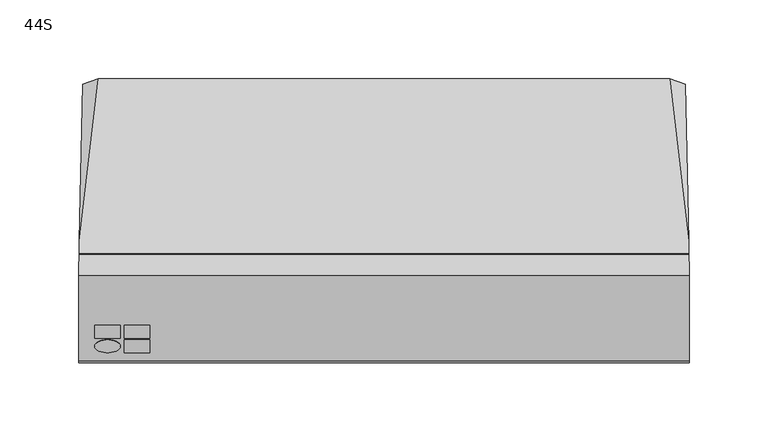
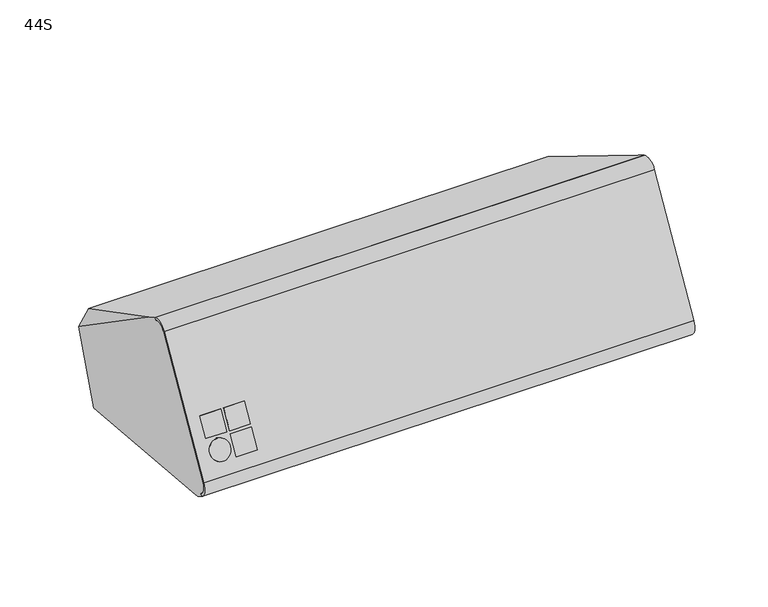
"""IFC4 building model written with IfcOpenShell, lengths in millimetres: proxy geometry, d&b xS-Series 44S Point Source : 44S."""

import ifcopenshell
import ifcopenshell.guid

model = None  # the IFC model being written
_history = None  # IfcOwnerHistory: only IFC2X3 demands one
_inside = {}  # id of a spatial element -> (the spatial element, [elements in it])
_under = {}  # id of a project, library or spatial element -> (it, [spatial elements below it])
_declared = {}  # id of a project -> (the project, [libraries it declares])
_typed = {}  # id of a type object -> (the type object, [elements of that type])
_made_of = {}  # id of a material, layer set ... -> (it, [elements and type objects made of it])


def new_model(schema):
    """Start an empty IFC model of exactly this schema.

    Asked for "IFC4X3", IfcOpenShell would pick the latest addendum, in which some entities
    have other attributes; the version numbers below select the first issue.
    IFC2X3 requires an IfcOwnerHistory on every rooted entity: one is made here for all.
    """
    global model, _history
    if schema == "IFC4X3":
        model = ifcopenshell.file(schema_version=(4, 3, 0, 0))
    else:
        model = ifcopenshell.file(schema=schema)
    _inside.clear()
    _under.clear()
    _declared.clear()
    _typed.clear()
    _made_of.clear()
    _history = None
    if model.schema == "IFC2X3":
        org = make("IfcOrganization", Name="unknown")
        user = make(
            "IfcPersonAndOrganization",
            ThePerson=make("IfcPerson", FamilyName="unknown"),
            TheOrganization=org,
        )
        app = make(
            "IfcApplication",
            ApplicationDeveloper=org,
            Version="unknown",
            ApplicationFullName="unknown",
            ApplicationIdentifier="unknown",
        )
        _history = make(
            "IfcOwnerHistory",
            OwningUser=user,
            OwningApplication=app,
            ChangeAction="ADDED",
            CreationDate=0,
        )
    return model


def make(cls, **values):
    """One entity of the class cls with the attributes given. An attribute that is None is left unset."""
    return model.create_entity(
        cls, **{name: value for name, value in values.items() if value is not None}
    )


def rooted(cls, **values):
    """An entity with a GlobalId (a new one), such as an element, a storey or a relation."""
    return make(cls, GlobalId=ifcopenshell.guid.new(), OwnerHistory=_history, **values)


def si_unit(unit_type, name, prefix=None):
    """IfcSIUnit, for example si_unit("LENGTHUNIT", "METRE", prefix="MILLI")."""
    return make("IfcSIUnit", UnitType=unit_type, Prefix=prefix, Name=name)


def assignment(units):
    """IfcUnitAssignment: the units of a project."""
    return None if units is None else make("IfcUnitAssignment", Units=units)


def point(xyz):
    """IfcCartesianPoint."""
    return None if xyz is None else make("IfcCartesianPoint", Coordinates=xyz)


def direction(xyz):
    """IfcDirection."""
    return None if xyz is None else make("IfcDirection", DirectionRatios=xyz)


def frame(location, z_axis=None, x_axis=None):
    """IfcAxis2Placement3D, a coordinate frame: its origin and axes. An axis left out is left unset."""
    return make(
        "IfcAxis2Placement3D",
        Location=point(location),
        Axis=direction(z_axis),
        RefDirection=direction(x_axis),
    )


def frame_2d(location, x_axis=None):
    """IfcAxis2Placement2D, a coordinate frame in the plane: its origin and x axis."""
    return make(
        "IfcAxis2Placement2D", Location=point(location), RefDirection=direction(x_axis)
    )


def origin():
    """The frame at (0, 0, 0) with its axes left unset."""
    return frame((0.0, 0.0, 0.0))


def place(relative_to, where):
    """IfcLocalPlacement: puts the frame where relative to a parent placement (None: the world)."""
    return make(
        "IfcLocalPlacement", PlacementRelTo=relative_to, RelativePlacement=where
    )


def context(
    kind, dimensions, precision=None, world=None, true_north=None, identifier=None
):
    """IfcGeometricRepresentationContext, for example the 3D "Model" context."""
    return make(
        "IfcGeometricRepresentationContext",
        ContextIdentifier=identifier,
        ContextType=kind,
        CoordinateSpaceDimension=dimensions,
        Precision=precision,
        WorldCoordinateSystem=world,
        TrueNorth=true_north,
    )


def project(units=None, contexts=None):
    """IfcProject with its units and contexts."""
    return rooted(
        "IfcProject",
        Name="project",
        RepresentationContexts=contexts,
        UnitsInContext=assignment(units),
    )


def spatial(cls, under=None, at=None, **own):
    """A site, building, storey or space (cls), placed at a placement, below another one or the project."""
    s = rooted(cls, ObjectPlacement=at, **own)
    if under is not None:
        _under.setdefault(under.id(), (under, []))[1].append(s)
    return s


def polyline(points):
    """IfcPolyline through the points."""
    return make("IfcPolyline", Points=[point(p) for p in points])


def circle_curve(where, radius):
    """IfcCircle in the frame where."""
    return make("IfcCircle", Position=where, Radius=radius)


def ellipse_curve(where, semi_axis1, semi_axis2):
    """IfcEllipse in the frame where."""
    return make(
        "IfcEllipse", Position=where, SemiAxis1=semi_axis1, SemiAxis2=semi_axis2
    )


def trimmed(basis, trim1, trim2, sense, master):
    """IfcTrimmedCurve: the piece of a basis curve between two trims."""
    return make(
        "IfcTrimmedCurve",
        BasisCurve=basis,
        Trim1=trim1,
        Trim2=trim2,
        SenseAgreement=sense,
        MasterRepresentation=master,
    )


def segment(curve, same_sense, transition):
    """IfcCompositeCurveSegment."""
    return make(
        "IfcCompositeCurveSegment",
        Transition=transition,
        SameSense=same_sense,
        ParentCurve=curve,
    )


def composite_curve(segments, self_intersect=None):
    """IfcCompositeCurve: segments joined end to end."""
    return make("IfcCompositeCurve", Segments=segments, SelfIntersect=self_intersect)


def outline(outer, holes=None, kind="AREA"):
    """IfcArbitraryClosedProfileDef: a profile drawn as a closed curve; with holes, ...WithVoids."""
    if holes is None:
        return make("IfcArbitraryClosedProfileDef", ProfileType=kind, OuterCurve=outer)
    return make(
        "IfcArbitraryProfileDefWithVoids",
        ProfileType=kind,
        OuterCurve=outer,
        InnerCurves=holes,
    )


def extrude(swept, where, along, depth):
    """IfcExtrudedAreaSolid: the profile swept, set in the frame where, extruded along a direction by depth."""
    return make(
        "IfcExtrudedAreaSolid",
        SweptArea=swept,
        Position=where,
        ExtrudedDirection=direction(along),
        Depth=depth,
    )


def shape(context_of_items, identifier, shape_type, items):
    """IfcShapeRepresentation: the items that make up one representation, for example the "Body"."""
    return make(
        "IfcShapeRepresentation",
        ContextOfItems=context_of_items,
        RepresentationIdentifier=identifier,
        RepresentationType=shape_type,
        Items=items,
    )


def source(mapping_origin, context_of_items, identifier, shape_type, items):
    """IfcRepresentationMap: a shape defined once, which mapped items show again and again."""
    return make(
        "IfcRepresentationMap",
        MappingOrigin=mapping_origin,
        MappedRepresentation=shape(context_of_items, identifier, shape_type, items),
    )


def transform(
    local_origin,
    x_axis=None,
    y_axis=None,
    z_axis=None,
    scale=None,
    scale2=None,
    scale3=None,
    uniform=True,
):
    """IfcCartesianTransformationOperator3D, or its non-uniform kind. x_axis, y_axis, z_axis: its Axis1, 2, 3."""
    if uniform:
        return make(
            "IfcCartesianTransformationOperator3D",
            Axis1=direction(x_axis),
            Axis2=direction(y_axis),
            LocalOrigin=point(local_origin),
            Scale=scale,
            Axis3=direction(z_axis),
        )
    return make(
        "IfcCartesianTransformationOperator3DnonUniform",
        Axis1=direction(x_axis),
        Axis2=direction(y_axis),
        LocalOrigin=point(local_origin),
        Scale=scale,
        Axis3=direction(z_axis),
        Scale2=scale2,
        Scale3=scale3,
    )


def mapped(mapping_source, mapping_target):
    """IfcMappedItem: shows the shape of a source again, moved by a transform."""
    return make(
        "IfcMappedItem", MappingSource=mapping_source, MappingTarget=mapping_target
    )


def made_of(thing, what):
    """Note that an element or type object is made of a material, layer set ...; save() writes the relation."""
    if what is not None:
        _made_of.setdefault(what.id(), (what, []))[1].append(thing)
    return thing


def element(
    cls,
    number,
    at=None,
    inside=None,
    cuts=None,
    type_object=None,
    material=None,
    context=None,
    identifier="Body",
    shape_type=None,
    held_by="IfcProductDefinitionShape",
    body=None,
    shapes=None,
    **own,
):
    """One element of the class cls, such as IfcWall. Its Tag is "e" and its number.

    at: its placement. inside: the storey or other place that contains it. cuts: it is an
    opening in that element (IfcRelVoidsElement). A single representation is given by context,
    identifier, shape_type and body (its items); several are given by shapes. held_by: the class
    of the entity that holds the representations. save() writes the other relations.
    """
    e = rooted(cls, Tag="e%d" % number, ObjectPlacement=at, **own)
    if body is not None:
        shapes = [shape(context, identifier, shape_type, body)]
    if shapes is not None:
        e.Representation = make(held_by, Representations=shapes)
    if inside is not None:
        _inside.setdefault(inside.id(), (inside, []))[1].append(e)
    if cuts is not None:
        rooted(
            "IfcRelVoidsElement", RelatingBuildingElement=cuts, RelatedOpeningElement=e
        )
    if type_object is not None:
        _typed.setdefault(type_object.id(), (type_object, []))[1].append(e)
    return made_of(e, material)


def aggregate(whole, parts):
    """IfcRelAggregates: a whole, such as a stair, and the parts it consists of."""
    return rooted("IfcRelAggregates", RelatingObject=whole, RelatedObjects=parts)


def save(model, path):
    """Write the relations noted so far, then the file.

    IfcRelAggregates (storeys below a building ...), IfcRelContainedInSpatialStructure (elements
    in a storey), IfcRelDefinesByType, IfcRelAssociatesMaterial and IfcRelDeclares: one each for
    every whole, place, type object, material and project.
    """
    for whole, parts in _under.values():
        aggregate(whole, parts)
    for where, things in _inside.values():
        rooted(
            "IfcRelContainedInSpatialStructure",
            RelatedElements=things,
            RelatingStructure=where,
        )
    for kind, things in _typed.values():
        rooted("IfcRelDefinesByType", RelatedObjects=things, RelatingType=kind)
    for what, things in _made_of.values():
        rooted("IfcRelAssociatesMaterial", RelatedObjects=things, RelatingMaterial=what)
    for by, libraries in _declared.values():
        rooted("IfcRelDeclares", RelatingContext=by, RelatedDefinitions=libraries)
    model.write(path)


def plane_surface(at):
    """IfcPlane: the flat surface through the origin of the frame at, square to its z axis."""
    return make("IfcPlane", Position=at)


def cylinder_surface(at, radius):
    """IfcCylindricalSurface: all points at the distance radius from the z axis of the frame at."""
    return make("IfcCylindricalSurface", Position=at, Radius=radius)


def revolved_surface(curve, axis_point, axis_direction):
    """IfcSurfaceOfRevolution: the curve turned about the line through axis_point along axis_direction."""
    return make(
        "IfcSurfaceOfRevolution",
        SweptCurve=make("IfcArbitraryOpenProfileDef", ProfileType="CURVE", Curve=curve),
        AxisPosition=make("IfcAxis1Placement", Location=point(axis_point), Axis=direction(axis_direction)),
    )


def advanced_brep(points, edges, surfaces, faces):
    """IfcAdvancedBrep: a solid bounded by faces that lie on surfaces and meet in shared edges.

    An edge is (start, end): straight between two places in points (the first is 0);
    or (start, end, curve); or (start, end, curve, False) where it runs against its curve.
    A face is (place in surfaces, loops), or (place, loops, False) where it looks against
    its surface's normal. A loop lists edges by number (the first is 1), with a minus sign
    where the edge is run from its end to its start. The first loop is the outer one.
    """
    corners = [point(p) for p in points]
    vertices = [make("IfcVertexPoint", VertexGeometry=c) for c in corners]
    made = []
    for start, end, *more in edges:
        made.append(
            make(
                "IfcEdgeCurve",
                EdgeStart=vertices[start],
                EdgeEnd=vertices[end],
                EdgeGeometry=more[0] if more else make("IfcPolyline", Points=[corners[start], corners[end]]),
                SameSense=more[1] if len(more) > 1 else True,
            )
        )
    hull = []
    for where, loops, *sense in faces:
        bounds = []
        for j, loop in enumerate(loops):
            ring = [make("IfcOrientedEdge", EdgeElement=made[abs(k) - 1], Orientation=k > 0) for k in loop]
            bounds.append(
                make(
                    "IfcFaceOuterBound" if j == 0 else "IfcFaceBound",
                    Bound=make("IfcEdgeLoop", EdgeList=ring),
                    Orientation=True,
                )
            )
        hull.append(make("IfcAdvancedFace", Bounds=bounds, FaceSurface=surfaces[where], SameSense=sense[0] if sense else True))
    return make("IfcAdvancedBrep", Outer=make("IfcClosedShell", CfsFaces=hull))


def proxy_44s_0ea58366(model_context):
    return source(origin(), model_context, "Body", "SolidModel", [
        advanced_brep(
        [(193.2924342, -25.1576766, 88.4256258), (193.2924342, -26.1359145, 86.7312681), (193.4294708, -37.0164369, 83.8158409), (193.4294708, -91.0556514, -9.7828242), (193.2918337, -88.1274482, -20.7110274), (193.2918337, -89.1274482, -22.4430782), (193.1898069, -83.9917527, -25.4081734), (193.132384, -80.4940274, -26.0252142), (190.8800877, 62.083919, -40.8972455), (191.0574064, 82.3836518, 14.875812), (193.132384, -17.1012722, 83.7742586), (-193.2924342, -26.1359145, 86.7312681), (-193.2924342, -25.1576766, 88.4256258), (-193.132384, -17.1012722, 83.7742586), (-191.0574064, 82.3836518, 14.875812), (-190.8800877, 62.083919, -40.8972455), (-193.132384, -80.4940274, -26.0252142), (-193.1898069, -83.9917527, -25.4081734), (-193.2918337, -89.1274482, -22.4430782), (-193.2918337, -88.1274482, -20.7110274), (-193.4294708, -91.0556514, -9.7828242), (-193.4294708, -37.0164369, 83.8158409), (181.3061997, 85.8306872, 24.3464641), (-181.3061997, 85.8306872, 24.3464641), (-179.9289467, 58.5679066, -50.55741), (179.9289467, 58.5679066, -50.55741), (138.5, 67.7530351, -25.3214771), (138.5, 76.6455588, -0.8894689), (128.5, 80.0657602, 8.5074573), (51.5, 80.0657602, 8.5074573), (41.5, 76.6455588, -0.8894689), (41.5, 67.7530351, -25.3214771), (51.5, 64.3328336, -34.7184033), (128.5, 64.3328336, -34.7184033), (138.5, 63.054572, -23.6113763), (128.5, 59.6343705, -33.0083025), (51.5, 59.6343705, -33.0083025), (41.5, 63.054572, -23.6113763), (41.5, 71.9470957, 0.8206318), (51.5, 75.3672971, 10.217558), (128.5, 75.3672971, 10.217558), (138.5, 71.9470957, 0.8206318)],
        [
            (0, 1),
            (1, 2, ellipse_curve(frame((193.2924342, -30.1184621, 79.8332933), z_axis=(0.9998520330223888, 0.014897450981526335, -0.008601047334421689), x_axis=(0.017202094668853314, -0.865897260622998, 0.49992601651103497)), 7.9662739, 7.9650952)),
            (2, 3),
            (3, 4, ellipse_curve(frame((193.2918337, -84.1274482, -13.7828242), z_axis=(0.9998520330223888, 0.014897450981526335, -0.008601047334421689), x_axis=(0.017202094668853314, -0.865897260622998, 0.49992601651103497)), 8.0011839, 8.0)),
            (4, 5),
            (5, 6),
            (6, 7),
            (7, 8),
            (8, 9),
            (9, 10),
            (10, 0),
            (11, 12),
            (12, 13),
            (13, 14),
            (14, 15),
            (15, 16),
            (16, 17),
            (17, 18),
            (18, 19),
            (19, 20, ellipse_curve(frame((-193.2918337, -84.1274482, -13.7828242), z_axis=(-0.999852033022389, 0.014897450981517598, -0.008601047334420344), x_axis=(0.0172020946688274, 0.8658972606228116, -0.49992601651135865)), 8.0011839, 8.0)),
            (20, 21),
            (21, 11, ellipse_curve(frame((-193.2924342, -30.1184621, 79.8332933), z_axis=(-0.999852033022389, 0.014897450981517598, -0.008601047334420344), x_axis=(0.0172020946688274, 0.8658972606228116, -0.49992601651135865)), 7.9662739, 7.9650952)),
            (0, 12),
            (11, 1),
            (21, 2),
            (20, 3),
            (19, 4),
            (18, 5),
            (17, 6),
            (10, 22),
            (22, 23),
            (23, 13),
            (16, 24),
            (24, 25),
            (25, 7),
            (9, 22),
            (23, 14),
            (15, 24),
            (25, 8),
            (26, 27),
            (27, 28, circle_curve(frame((128.5, 76.6455588, -0.8894689), z_axis=(0.0, -0.9396926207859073, 0.34202014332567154), x_axis=(0.0, -0.34202014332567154, -0.9396926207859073)), 10.0)),
            (28, 29),
            (29, 30, circle_curve(frame((51.5, 76.6455588, -0.8894689), z_axis=(0.0, -0.9396926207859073, 0.34202014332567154), x_axis=(0.0, -0.34202014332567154, -0.9396926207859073)), 10.0)),
            (30, 31),
            (31, 32, circle_curve(frame((51.5, 67.7530351, -25.3214771), z_axis=(0.0, -0.9396926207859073, 0.34202014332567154), x_axis=(0.0, -0.34202014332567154, -0.9396926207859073)), 10.0)),
            (32, 33),
            (33, 26, circle_curve(frame((128.5, 67.7530351, -25.3214771), z_axis=(0.0, -0.9396926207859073, 0.34202014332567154), x_axis=(0.0, -0.34202014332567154, -0.9396926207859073)), 10.0)),
            (34, 35, circle_curve(frame((128.5, 63.054572, -23.6113763), z_axis=(0.0, 0.9396926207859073, -0.34202014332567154), x_axis=(0.0, -0.34202014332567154, -0.9396926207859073)), 10.0)),
            (35, 36),
            (36, 37, circle_curve(frame((51.5, 63.054572, -23.6113763), z_axis=(0.0, 0.9396926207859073, -0.34202014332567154), x_axis=(0.0, -0.34202014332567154, -0.9396926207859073)), 10.0)),
            (37, 38),
            (38, 39, circle_curve(frame((51.5, 71.9470957, 0.8206318), z_axis=(0.0, 0.9396926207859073, -0.34202014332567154), x_axis=(0.0, -0.34202014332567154, -0.9396926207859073)), 10.0)),
            (39, 40),
            (40, 41, circle_curve(frame((128.5, 71.9470957, 0.8206318), z_axis=(0.0, 0.9396926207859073, -0.34202014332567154), x_axis=(0.0, -0.34202014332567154, -0.9396926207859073)), 10.0)),
            (41, 34),
            (41, 27),
            (26, 34),
            (40, 28),
            (39, 29),
            (38, 30),
            (37, 31),
            (36, 32),
            (35, 33),
        ],
        [
            plane_surface(frame((193.8309972, -134.2671805, -37.950861), z_axis=(0.999852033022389, 0.014897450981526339, -0.00860104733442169), x_axis=(0.0, 0.5000000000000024, 0.8660254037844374))),
            plane_surface(frame((-190.7119283, 22.7365637, -128.597015), z_axis=(-0.999852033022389, 0.014897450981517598, -0.008601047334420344), x_axis=(0.0, 0.5000000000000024, 0.8660254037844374))),
            plane_surface(frame((207.1452552, -25.1576766, 88.4256258), z_axis=(0.0, -0.8660254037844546, 0.4999999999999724), x_axis=(-1.0, 0.0, 0.0))),
            cylinder_surface(frame((-207.1452552, -30.1184621, 79.8332933), z_axis=(1.0, 0.0, 0.0), x_axis=(0.0, 0.5000000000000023, 0.8660254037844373)), 7.9650952),
            plane_surface(frame((207.1452552, -37.0164369, 83.8158409), z_axis=(0.0, -0.8660254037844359, 0.5000000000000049), x_axis=(-1.0, 0.0, 0.0))),
            cylinder_surface(frame((-207.1452552, -84.1274482, -13.7828242), z_axis=(1.0, 0.0, 0.0), x_axis=(0.0, 0.5000000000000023, 0.8660254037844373)), 8.0),
            plane_surface(frame((207.1452552, -88.1274482, -20.7110274), z_axis=(0.0, -0.8660254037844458, 0.49999999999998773), x_axis=(-1.0, 0.0, 0.0))),
            plane_surface(frame((207.1452552, -89.1274482, -22.4430782), z_axis=(0.0, -0.5000000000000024, -0.8660254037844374), x_axis=(-1.0, 0.0, 0.0))),
            plane_surface(frame((207.1452552, -19.9917527, 85.4430782), z_axis=(0.0, 0.5000000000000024, 0.8660254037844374), x_axis=(-1.0, 0.0, 0.0))),
            plane_surface(frame((0.0, 58.5679066, -50.55741), z_axis=(0.0, -0.17372939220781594, -0.9847934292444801), x_axis=(1.0, 0.0, 0.0))),
            plane_surface(frame((186.6967137, 94.4340472, 11.5645677), z_axis=(0.705363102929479, 0.4134626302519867, 0.5757703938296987), x_axis=(-0.7071067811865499, 0.35355339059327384, 0.6123724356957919))),
            plane_surface(frame((-186.6967137, 94.4340472, 11.5645677), z_axis=(-0.705363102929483, 0.41346263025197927, 0.5757703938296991), x_axis=(-0.7071067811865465, -0.3535533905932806, -0.6123724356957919))),
            plane_surface(frame((-186.6967137, 61.9517901, -44.6963519), z_axis=(-0.6719558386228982, -0.06632438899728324, -0.7376153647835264), x_axis=(0.7071067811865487, -0.3535533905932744, -0.6123724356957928))),
            plane_surface(frame((186.6967137, 61.9517901, -44.6963519), z_axis=(0.6719558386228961, -0.06632438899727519, -0.7376153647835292), x_axis=(0.7071067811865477, 0.35355339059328, 0.6123724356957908))),
            plane_surface(frame((250.0, 91.8245154, 40.8143715), z_axis=(0.0, 0.9396926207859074, -0.34202014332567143), x_axis=(-1.0, 0.0, 0.0))),
            plane_surface(frame((138.5, 81.1322241, 26.0565648), z_axis=(0.0, 0.9396926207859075, -0.34202014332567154), x_axis=(0.0, 0.34202014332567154, 0.9396926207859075))),
            plane_surface(frame((138.5, 63.054572, -23.6113763), z_axis=(-1.0, 0.0, 0.0), x_axis=(0.0, 0.939692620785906, -0.3420201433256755))),
            revolved_surface(polyline([(128.5, 68.5268942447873, -8.576294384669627), (128.5, 73.22535736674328, -10.286395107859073)]), (128.5, 76.6455588, -0.8894689), (0.0, -0.9396926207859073, 0.34202014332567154)),
            plane_surface(frame((128.5, 75.3672971, 10.217558), z_axis=(0.0, -0.3420201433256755, -0.939692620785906), x_axis=(0.0, 0.939692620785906, -0.3420201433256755))),
            revolved_surface(polyline([(51.5, 68.5268942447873, -8.576294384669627), (51.5, 73.22535736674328, -10.286395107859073)]), (51.5, 76.6455588, -0.8894689), (0.0, -0.9396926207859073, 0.34202014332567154)),
            plane_surface(frame((41.5, 71.9470957, 0.8206318), z_axis=(1.0, 0.0, 0.0), x_axis=(0.0, 0.939692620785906, -0.3420201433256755))),
            revolved_surface(polyline([(51.5, 59.634370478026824, -33.008302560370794), (51.5, 64.33283366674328, -34.71840330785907)]), (51.5, 67.7530351, -25.3214771), (0.0, -0.9396926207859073, 0.34202014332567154)),
            plane_surface(frame((51.5, 59.6343705, -33.0083025), z_axis=(0.0, 0.3420201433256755, 0.939692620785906), x_axis=(0.0, 0.939692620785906, -0.3420201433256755))),
            revolved_surface(polyline([(128.5, 59.634370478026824, -33.008302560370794), (128.5, 64.33283366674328, -34.71840330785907)]), (128.5, 67.7530351, -25.3214771), (0.0, -0.9396926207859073, 0.34202014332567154)),
        ],
        [
            (0, [[1, 2, 3, 4, 5, 6, 7, 8, 9, 10, 11]]),
            (1, [[12, 13, 14, 15, 16, 17, 18, 19, 20, 21, 22]]),
            (2, [[23, -12, 24, -1]]),
            (3, [[-24, -22, 25, -2]]),
            (4, [[-25, -21, 26, -3]]),
            (5, [[-26, -20, 27, -4]]),
            (6, [[-27, -19, 28, -5]]),
            (7, [[-28, -18, 29, -6]]),
            (8, [[-23, -11, 30, 31, 32, -13]]),
            (9, [[-29, -17, 33, 34, 35, -7]]),
            (10, [[-30, -10, 36]]),
            (11, [[-32, 37, -14]]),
            (12, [[-33, -16, 38]]),
            (13, [[-35, 39, -8]]),
            (14, [[-31, -36, -9, -39, -34, -38, -15, -37], [40, 41, 42, 43, 44, 45, 46, 47]]),
            (15, [[48, 49, 50, 51, 52, 53, 54, 55]]),
            (16, [[-55, 56, -40, 57]]),
            (17, [[-54, 58, -41, -56]]),
            (18, [[-53, 59, -42, -58]]),
            (19, [[-52, 60, -43, -59]]),
            (20, [[-51, 61, -44, -60]]),
            (21, [[-50, 62, -45, -61]]),
            (22, [[-49, 63, -46, -62]]),
            (23, [[-48, -57, -47, -63]]),
        ],
    ),
        extrude(outline(polyline([(0.0, -16.3333333), (0.0, 0.0), (5.0, 0.0), (5.0, -16.3333333), (0.0, -16.3333333)])), frame((-164.7978139, -87.8179307, -0.1051178), z_axis=(0.0, 0.5000000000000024, 0.8660254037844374), x_axis=(0.0, 0.8660254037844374, -0.5000000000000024)), (0.0, 0.0, 1.0), 16.3333333),
        extrude(outline(polyline([(0.0, -16.3333333), (0.0, 0.0), (5.0000001, 0.0), (5.0000001, -16.3333333), (0.0, -16.3333333)])), frame((-164.7978139, -78.4845974, 16.0606898), z_axis=(0.0, 0.5000000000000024, 0.8660254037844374), x_axis=(0.0, 0.8660254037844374, -0.5000000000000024)), (0.0, 0.0, 1.0), 16.3333333),
        extrude(outline(polyline([(0.0, -16.3333333), (0.0, 0.0), (5.0000001, 0.0), (5.0000001, -16.3333333), (0.0, -16.3333333)])), frame((-183.4644806, -78.4845974, 16.0606898), z_axis=(0.0, 0.5000000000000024, 0.8660254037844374), x_axis=(0.0, 0.8660254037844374, -0.5000000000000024)), (0.0, 0.0, 1.0), 16.3333333),
        extrude(outline(composite_curve([segment(trimmed(circle_curve(frame_2d((-36.1666666, -8.1666667)), 8.1666667), [point((-44.3333333, -8.1666667))], [point((-28.0, -8.1666667))], False, "CARTESIAN"), True, "CONTINUOUS"), segment(trimmed(circle_curve(frame_2d((-36.1666666, -8.1666667)), 8.1666667), [point((-28.0, -8.1666667))], [point((-44.3333333, -8.1666667))], False, "CARTESIAN"), True, "CONTINUOUS")], self_intersect=False)), frame((-139.1311473, -75.321137, 11.5399638), z_axis=(0.0, -0.8660254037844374, 0.5000000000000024), x_axis=(1.0, 0.0, 0.0)), (0.0, 0.0, 1.0), 5.0),
        advanced_brep(
        [(193.4294708, -91.0556514, -9.7828242), (193.4294708, -37.0164369, 83.8158409), (193.2924342, -26.1359145, 86.7312681), (193.2924342, -25.1576766, 88.4256258), (193.4644806, -38.8179307, 84.7653718), (193.4644806, -92.8179307, -8.7653718), (193.2918337, -89.1449006, -22.4733067), (193.2918337, -88.1274482, -20.7110274), (-193.4294708, -37.0164369, 83.8158409), (-193.4294708, -91.0556514, -9.7828242), (-193.2918337, -88.1274482, -20.7110274), (-193.2918337, -89.1449006, -22.4733067), (-193.4644806, -92.8179307, -8.7653718), (-193.4644806, -38.8179307, 84.7653718), (-193.2924342, -25.1576766, 88.4256258), (-193.2924342, -26.1359145, 86.7312681)],
        [
            (0, 1),
            (1, 2, ellipse_curve(frame((193.2924342, -30.1184621, 79.8332933), z_axis=(-0.9998520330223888, -0.014897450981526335, 0.008601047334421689), x_axis=(-0.01720209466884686, 0.8658972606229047, -0.4999260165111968)), 7.9662739, 7.9650952)),
            (2, 3),
            (3, 4, ellipse_curve(frame((193.2924342, -30.1576766, 79.7653718), z_axis=(0.9998520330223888, 0.014897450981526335, -0.008601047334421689), x_axis=(0.01720209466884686, -0.8658972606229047, 0.4999260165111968)), 10.0014799, 10.0)),
            (4, 5),
            (5, 6, ellipse_curve(frame((193.2918337, -84.1274482, -13.7828242), z_axis=(0.9998520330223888, 0.014897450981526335, -0.008601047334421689), x_axis=(0.01720209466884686, -0.8658972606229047, 0.4999260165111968)), 10.0363899, 10.0349048)),
            (6, 7),
            (7, 0, ellipse_curve(frame((193.2918337, -84.1274482, -13.7828242), z_axis=(-0.9998520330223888, -0.014897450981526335, 0.008601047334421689), x_axis=(-0.01720209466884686, 0.8658972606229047, -0.4999260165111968)), 8.0011839, 8.0)),
            (8, 9),
            (9, 10, ellipse_curve(frame((-193.2918337, -84.1274482, -13.7828242), z_axis=(0.999852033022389, -0.014897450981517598, 0.008601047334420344), x_axis=(-0.017202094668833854, -0.865897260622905, 0.4999260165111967)), 8.0011839, 8.0)),
            (10, 11),
            (11, 12, ellipse_curve(frame((-193.2918337, -84.1274482, -13.7828242), z_axis=(-0.999852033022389, 0.014897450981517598, -0.008601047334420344), x_axis=(0.017202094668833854, 0.865897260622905, -0.4999260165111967)), 10.0363899, 10.0349048)),
            (12, 13),
            (13, 14, ellipse_curve(frame((-193.2924342, -30.1576766, 79.7653718), z_axis=(-0.999852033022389, 0.014897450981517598, -0.008601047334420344), x_axis=(0.017202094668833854, 0.865897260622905, -0.4999260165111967)), 10.0014799, 10.0)),
            (14, 15),
            (15, 8, ellipse_curve(frame((-193.2924342, -30.1184621, 79.8332933), z_axis=(0.999852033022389, -0.014897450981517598, 0.008601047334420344), x_axis=(-0.017202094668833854, -0.865897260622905, 0.4999260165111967)), 7.9662739, 7.9650952)),
            (0, 9),
            (8, 1),
            (15, 2),
            (14, 3),
            (13, 4),
            (12, 5),
            (11, 6),
            (10, 7),
        ],
        [
            plane_surface(frame((193.8309972, -134.2671805, -37.950861), z_axis=(0.999852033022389, 0.014897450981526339, -0.00860104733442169), x_axis=(0.0, 0.5000000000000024, 0.8660254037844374))),
            plane_surface(frame((-190.7119283, 22.7365637, -128.597015), z_axis=(-0.999852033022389, 0.014897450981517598, -0.008601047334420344), x_axis=(0.0, 0.5000000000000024, 0.8660254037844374))),
            plane_surface(frame((202.5, -91.0556514, -9.7828242), z_axis=(0.0, 0.8660254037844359, -0.5000000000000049), x_axis=(-1.0, 0.0, 0.0))),
            revolved_surface(polyline([(-193.4294708, -34.10100970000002, 72.93531851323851), (193.4294708, -34.10100970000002, 72.93531851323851)]), (-202.5, -30.1184621, 79.8332933), (-1.0, 0.0, 0.0)),
            plane_surface(frame((202.5, -26.1359145, 86.7312681), z_axis=(0.0, 0.8660254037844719, -0.4999999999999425), x_axis=(-1.0, 0.0, 0.0))),
            cylinder_surface(frame((-202.5, -30.1576766, 79.7653718), z_axis=(1.0, 0.0, 0.0), x_axis=(0.0, -0.5000000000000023, -0.8660254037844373)), 10.0),
            plane_surface(frame((202.5, -38.8179307, 84.7653718), z_axis=(0.0, -0.8660254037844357, 0.5000000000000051), x_axis=(-1.0, 0.0, 0.0))),
            cylinder_surface(frame((-202.5, -84.1274482, -13.7828242), z_axis=(1.0, 0.0, 0.0), x_axis=(0.0, -0.5000000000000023, -0.8660254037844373)), 10.0349048),
            plane_surface(frame((202.5, -89.1449006, -22.4733067), z_axis=(0.0, 0.8660254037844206, -0.5000000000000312), x_axis=(-1.0, 0.0, 0.0))),
            revolved_surface(polyline([(-193.42947082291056, -88.12744820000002, -20.7110274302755), (193.42947082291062, -88.12744820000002, -20.7110274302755)]), (-202.5, -84.1274482, -13.7828242), (-1.0, 0.0, 0.0)),
        ],
        [
            (0, [[1, 2, 3, 4, 5, 6, 7, 8]]),
            (1, [[9, 10, 11, 12, 13, 14, 15, 16]]),
            (2, [[17, -9, 18, -1]]),
            (3, [[-18, -16, 19, -2]]),
            (4, [[-19, -15, 20, -3]]),
            (5, [[-20, -14, 21, -4]]),
            (6, [[-21, -13, 22, -5]]),
            (7, [[-22, -12, 23, -6]]),
            (8, [[-23, -11, 24, -7]]),
            (9, [[-17, -8, -24, -10]]),
        ],
    ),
    ])


if __name__ == "__main__":
    model = new_model("IFC4")
    model_context = context("Model", 3, world=origin())
    ifc_project = project(units=[si_unit("LENGTHUNIT", "METRE", prefix="MILLI")], contexts=[model_context])
    site = spatial("IfcSite", under=ifc_project)
    building = spatial("IfcBuilding", under=site)
    placement = place(None, origin())
    proxy_44s_shape = proxy_44s_0ea58366(model_context)
    element("IfcBuildingElementProxy", 1, Name="d&b xS-Series 44S Point Source : 44S", ObjectType="d&b xS-Series 44S Point Source : 44S", at=placement, inside=building, context=model_context, shape_type="MappedRepresentation", body=[
        mapped(proxy_44s_shape, transform((0.0, 0.0, 0.0), x_axis=(1.0, 0.0, 0.0), y_axis=(0.0, 1.0, 0.0), z_axis=(0.0, 0.0, 1.0))),
    ])
    save(model, "model.ifc")
